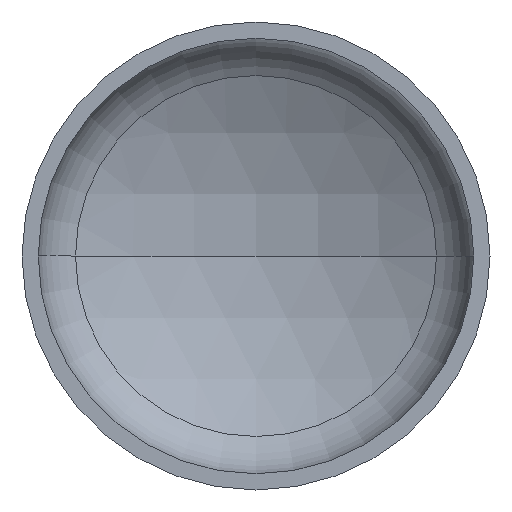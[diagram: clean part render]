
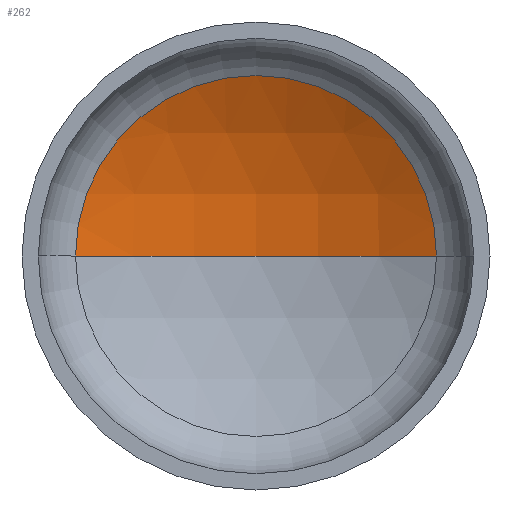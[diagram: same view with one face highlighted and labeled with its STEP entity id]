
A CAD part, front view. The second image highlights one B-rep face of the part: STEP entity #262.
In plain terms, the highlighted spherical face has radius 2080 mm.
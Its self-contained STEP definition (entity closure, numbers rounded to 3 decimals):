
#8 = AXIS2_PLACEMENT_3D ( 'NONE', #200, #293, #103 ) ;
#12 = EDGE_LOOP ( 'NONE', ( #342, #123, #101 ) ) ;
#19 = AXIS2_PLACEMENT_3D ( 'NONE', #189, #37, #192 ) ;
#28 = DIRECTION ( 'NONE',  ( 1., 0., 0. ) ) ;
#30 = AXIS2_PLACEMENT_3D ( 'NONE', #383, #344, #294 ) ;
#32 = AXIS2_PLACEMENT_3D ( 'NONE', #155, #65, #28 ) ;
#37 = DIRECTION ( 'NONE',  ( 0., 0., -1. ) ) ;
#44 = VERTEX_POINT ( 'NONE', #288 ) ;
#65 = DIRECTION ( 'NONE',  ( 0., -1., 0. ) ) ;
#88 = EDGE_CURVE ( 'NONE', #127, #44, #99, .T. ) ;
#89 = EDGE_CURVE ( 'NONE', #151, #127, #375, .T. ) ;
#96 = CARTESIAN_POINT ( 'NONE',  ( 1002.857, 450.437, 0. ) ) ;
#99 = CIRCLE ( 'NONE', #32, 1002.857 ) ;
#101 = ORIENTED_EDGE ( 'NONE', *, *, #88, .T. ) ;
#103 = DIRECTION ( 'NONE',  ( 1., 0., 0. ) ) ;
#123 = ORIENTED_EDGE ( 'NONE', *, *, #89, .T. ) ;
#127 = VERTEX_POINT ( 'NONE', #96 ) ;
#151 = VERTEX_POINT ( 'NONE', #389 ) ;
#155 = CARTESIAN_POINT ( 'NONE',  ( 0., 450.437, 0. ) ) ;
#188 = SPHERICAL_SURFACE ( 'NONE', #19, 2080. ) ;
#189 = CARTESIAN_POINT ( 'NONE',  ( 0., -1371.836, 0. ) ) ;
#192 = DIRECTION ( 'NONE',  ( -1., 0., 0. ) ) ;
#200 = CARTESIAN_POINT ( 'NONE',  ( 0., -1371.836, 0. ) ) ;
#262 = ADVANCED_FACE ( 'NONE', ( #409 ), #188, .F. ) ;
#288 = CARTESIAN_POINT ( 'NONE',  ( -1002.857, 450.437, 0. ) ) ;
#293 = DIRECTION ( 'NONE',  ( 0., 0., 1. ) ) ;
#294 = DIRECTION ( 'NONE',  ( -1., 0., 0. ) ) ;
#342 = ORIENTED_EDGE ( 'NONE', *, *, #349, .F. ) ;
#344 = DIRECTION ( 'NONE',  ( 0., 0., -1. ) ) ;
#346 = CIRCLE ( 'NONE', #8, 2080. ) ;
#349 = EDGE_CURVE ( 'NONE', #151, #44, #346, .T. ) ;
#375 = CIRCLE ( 'NONE', #30, 2080. ) ;
#383 = CARTESIAN_POINT ( 'NONE',  ( 0., -1371.836, 0. ) ) ;
#389 = CARTESIAN_POINT ( 'NONE',  ( 0., 708.164, 0. ) ) ;
#409 = FACE_OUTER_BOUND ( 'NONE', #12, .T. ) ;
